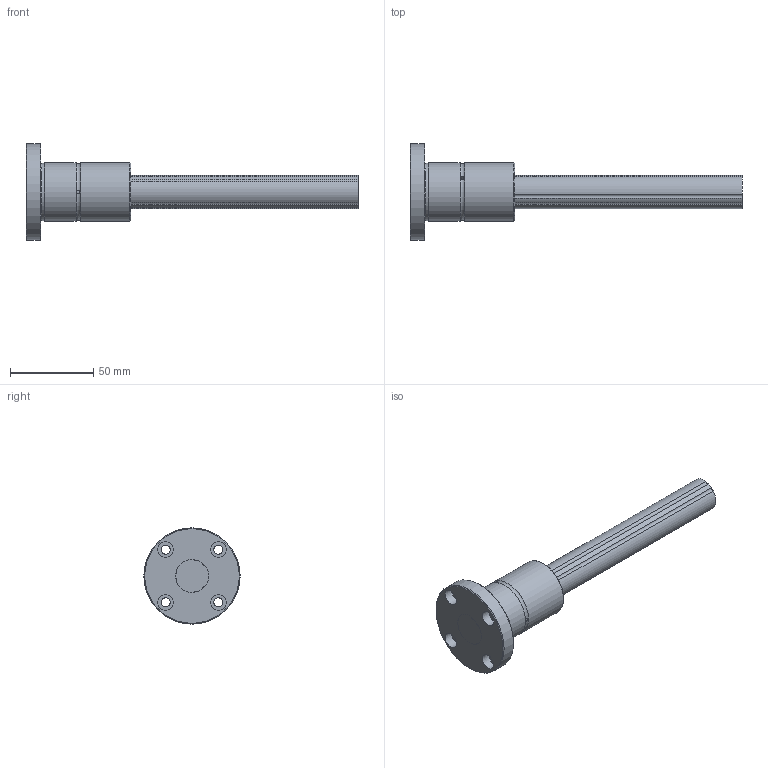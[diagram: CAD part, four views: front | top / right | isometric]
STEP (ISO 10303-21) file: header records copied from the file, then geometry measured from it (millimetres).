
FILE_DESCRIPTION(/* description */ ('STEP AP214'),/* implementation_level */ '2;1');
FILE_NAME(/* name */ 'LF201200(00)',/* time_stamp */ '2024-09-05T14:35:01+02:00',/* author */ ('License CC BY-ND 4.0'),/* organization */ ('CADENAS'),/* preprocessor_version */ 'ST-DEVELOPER v19.3',/* originating_system */ 'PARTsolutions',/* authorisation */ ' ');
FILE_SCHEMA (('AUTOMOTIVE_DESIGN {1 0 10303 214 3 1 1}'));
Length unit declared in the file: millimetre
Products named in the file (3): LF201200(00); LF 20200 FTLFShaft; LF 20 FTLF Cylindar
Assembly tree (2 placements, depth 2):
  LF201200(00)
    LF 20200 FTLFShaft
    LF 20 FTLF Cylindar
Bounding box: 200 x 58 x 58 mm (x, y, z)
Volume: 115911.4 mm3; surface area: 30516.6 mm2
Topology: 2 solids, 2 shells, 54 faces, 134 edges, 89 vertices
Faces by surface type: cylinder 39, plane 9, torus 4, cone 2
Full cylindrical faces by diameter (mm): 2 x3, 5.5 x4, 9.5 x4, 34.4 x1, 35 x2, 58 x1
Entity records: 1633 total; most frequent: CARTESIAN_POINT 305, DIRECTION 290, ORIENTED_EDGE 212, AXIS2_PLACEMENT_3D 133, EDGE_CURVE 106, EDGE_LOOP 96, FACE_BOUND 96, VERTEX_POINT 82
